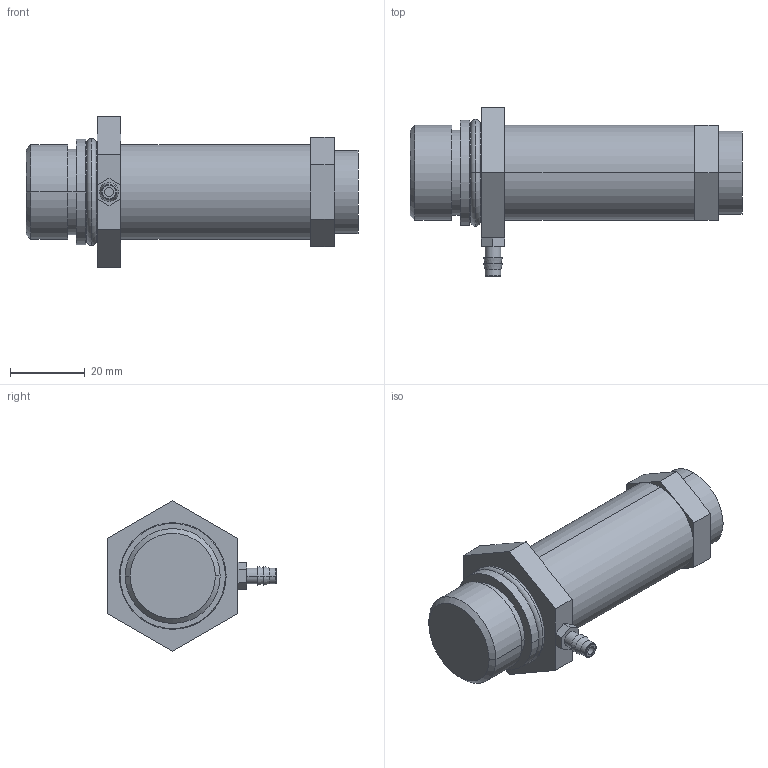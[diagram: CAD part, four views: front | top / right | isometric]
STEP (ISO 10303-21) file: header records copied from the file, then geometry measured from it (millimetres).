
FILE_DESCRIPTION((''),'2;1');
FILE_NAME('XG2_ASM','2017-08-24T',('jennifer.elliott'),('CenterLine (Windsor) Ltd - Automation Components Division'),'PRO/ENGINEER BY PARAMETRIC TECHNOLOGY CORPORATION, 2015030','PRO/ENGINEER BY PARAMETRIC TECHNOLOGY CORPORATION, 2015030','');
FILE_SCHEMA(('AUTOMOTIVE_DESIGN { 1 0 10303 214 1 1 1 1 }'));
Length unit declared in the file: inch
Products named in the file (7): PRT1102; PRT1103; PRT1104; PRT1105; PRT1106; PRT1107; XG2_ASM
Assembly tree (6 placements, depth 2):
  XG2_ASM
    PRT1102
    PRT1103
    PRT1104
    PRT1105
    PRT1106
    PRT1107
Bounding box: 88.9 x 45.24 x 40.33 mm (x, y, z)
Volume: 48559.2 mm3; surface area: 13805.1 mm2
Topology: 6 solids, 6 shells, 67 faces, 138 edges, 88 vertices
Faces by surface type: plane 35, cylinder 18, torus 8, cone 6
Entity records: 2230 total; most frequent: DIRECTION 358, CARTESIAN_POINT 325, ORIENTED_EDGE 276, AXIS2_PLACEMENT_3D 140, EDGE_CURVE 138, VERTEX_POINT 88, VECTOR 78, LINE 78
